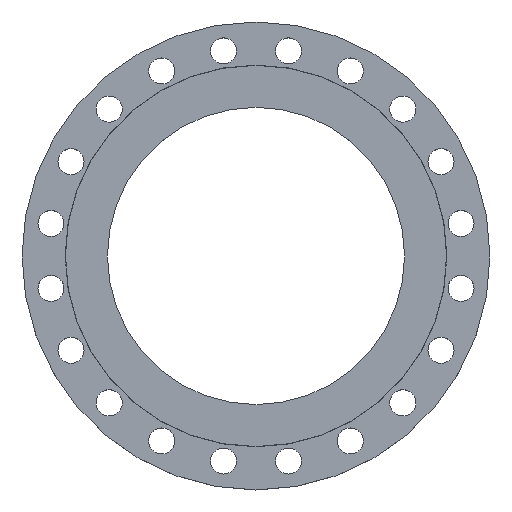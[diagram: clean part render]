
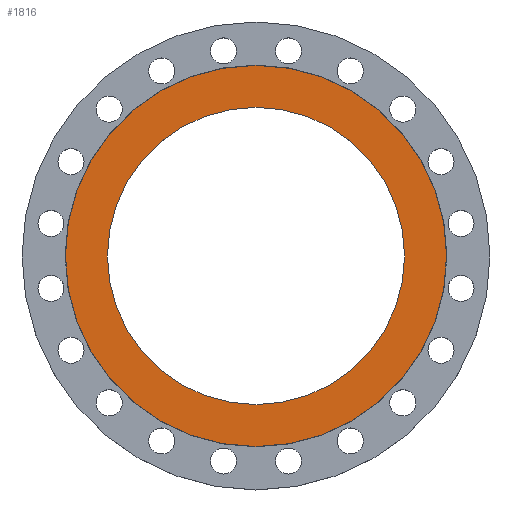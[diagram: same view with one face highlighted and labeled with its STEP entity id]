
A CAD part, top view. The second image highlights one B-rep face of the part: STEP entity #1816.
In plain terms, the highlighted planar face has unit normal (0, 0, 1).
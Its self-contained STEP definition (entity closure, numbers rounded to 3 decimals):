
#191 = CARTESIAN_POINT ( 'NONE',  ( 239.8, 0., 0. ) ) ;
#260 = CARTESIAN_POINT ( 'NONE',  ( -239.8, 0., 0. ) ) ;
#288 = DIRECTION ( 'NONE',  ( -1., 0., 0. ) ) ;
#289 = DIRECTION ( 'NONE',  ( 0., 0., -1. ) ) ;
#292 = CARTESIAN_POINT ( 'NONE',  ( 0., 0., 0. ) ) ;
#312 = CARTESIAN_POINT ( 'NONE',  ( -307.5, 0., 0. ) ) ;
#369 = DIRECTION ( 'NONE',  ( -1., 0., 0. ) ) ;
#370 = DIRECTION ( 'NONE',  ( 0., 0., -1. ) ) ;
#372 = CARTESIAN_POINT ( 'NONE',  ( 0., 0., 0. ) ) ;
#408 = EDGE_CURVE ( 'NONE', #956, #855, #989, .T. ) ;
#467 = DIRECTION ( 'NONE',  ( 1., 0., 0. ) ) ;
#469 = DIRECTION ( 'NONE',  ( 0., 0., 1. ) ) ;
#471 = CARTESIAN_POINT ( 'NONE',  ( 0., 0., 0. ) ) ;
#483 = CIRCLE ( 'NONE', #487, 307.5 ) ;
#487 = AXIS2_PLACEMENT_3D ( 'NONE', #372, #370, #369 ) ;
#604 = DIRECTION ( 'NONE',  ( 0., 0., 1. ) ) ;
#630 = CIRCLE ( 'NONE', #656, 307.5 ) ;
#633 = EDGE_CURVE ( 'NONE', #1424, #742, #483, .T. ) ;
#643 = CARTESIAN_POINT ( 'NONE',  ( 0., 0., 0. ) ) ;
#656 = AXIS2_PLACEMENT_3D ( 'NONE', #292, #289, #288 ) ;
#705 = EDGE_LOOP ( 'NONE', ( #1426, #1427 ) ) ;
#742 = VERTEX_POINT ( 'NONE', #312 ) ;
#783 = EDGE_LOOP ( 'NONE', ( #1411, #1413 ) ) ;
#788 = EDGE_CURVE ( 'NONE', #742, #1424, #630, .T. ) ;
#853 = FACE_BOUND ( 'NONE', #783, .T. ) ;
#855 = VERTEX_POINT ( 'NONE', #260 ) ;
#956 = VERTEX_POINT ( 'NONE', #191 ) ;
#989 = CIRCLE ( 'NONE', #1013, 239.8 ) ;
#1013 = AXIS2_PLACEMENT_3D ( 'NONE', #471, #469, #467 ) ;
#1122 = CARTESIAN_POINT ( 'NONE',  ( 307.5, 0., 0. ) ) ;
#1267 = DIRECTION ( 'NONE',  ( 1., 0., 0. ) ) ;
#1297 = DIRECTION ( 'NONE',  ( 0., 0., 1. ) ) ;
#1401 = FACE_OUTER_BOUND ( 'NONE', #705, .T. ) ;
#1411 = ORIENTED_EDGE ( 'NONE', *, *, #408, .F. ) ;
#1413 = ORIENTED_EDGE ( 'NONE', *, *, #1507, .F. ) ;
#1424 = VERTEX_POINT ( 'NONE', #1122 ) ;
#1426 = ORIENTED_EDGE ( 'NONE', *, *, #788, .F. ) ;
#1427 = ORIENTED_EDGE ( 'NONE', *, *, #633, .F. ) ;
#1507 = EDGE_CURVE ( 'NONE', #855, #956, #1550, .T. ) ;
#1550 = CIRCLE ( 'NONE', #1565, 239.8 ) ;
#1565 = AXIS2_PLACEMENT_3D ( 'NONE', #1769, #604, #1267 ) ;
#1666 = AXIS2_PLACEMENT_3D ( 'NONE', #643, #1297, #1678 ) ;
#1678 = DIRECTION ( 'NONE',  ( 1., 0., 0. ) ) ;
#1769 = CARTESIAN_POINT ( 'NONE',  ( 0., 0., 0. ) ) ;
#1793 = PLANE ( 'NONE',  #1666 ) ;
#1816 = ADVANCED_FACE ( 'NONE', ( #853, #1401 ), #1793, .T. ) ;
